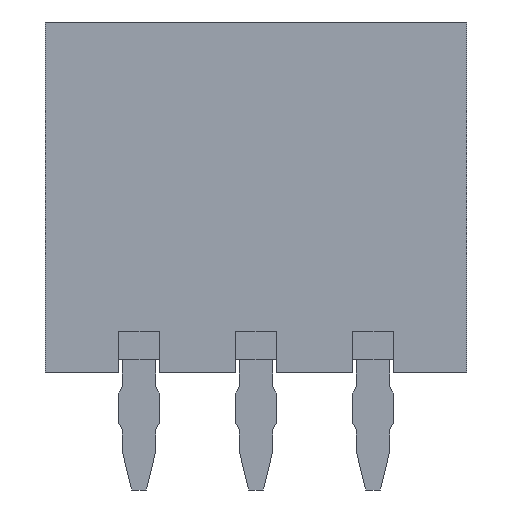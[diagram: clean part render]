
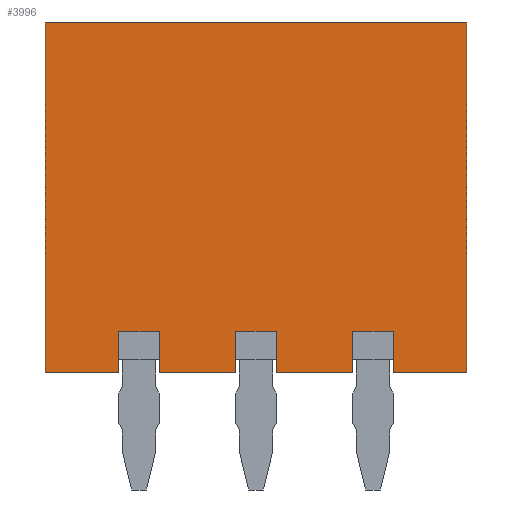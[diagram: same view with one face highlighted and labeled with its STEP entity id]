
A CAD part, front view. The second image highlights one B-rep face of the part: STEP entity #3996.
In plain terms, the highlighted planar face has unit normal (0, -1, 0).
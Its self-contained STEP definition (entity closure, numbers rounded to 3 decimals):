
#9=DIRECTION('',(1.,0.,0.));
#10=VECTOR('',#9,2.2);
#11=CARTESIAN_POINT('',(-6.3,-3.8,-5.25));
#12=LINE('',#11,#10);
#17=DIRECTION('',(1.,0.,0.));
#18=VECTOR('',#17,2.3);
#19=CARTESIAN_POINT('',(-2.9,-3.8,-5.25));
#20=LINE('',#19,#18);
#25=DIRECTION('',(1.,0.,0.));
#26=VECTOR('',#25,2.3);
#27=CARTESIAN_POINT('',(0.6,-3.8,-5.25));
#28=LINE('',#27,#26);
#29=DIRECTION('',(1.,0.,0.));
#30=VECTOR('',#29,2.2);
#31=CARTESIAN_POINT('',(4.1,-3.8,-5.25));
#32=LINE('',#31,#30);
#677=DIRECTION('',(1.,0.,0.));
#678=VECTOR('',#677,12.6);
#679=CARTESIAN_POINT('',(-6.3,-3.8,5.25));
#680=LINE('',#679,#678);
#811=DIRECTION('',(0.,0.,1.));
#812=VECTOR('',#811,10.5);
#813=CARTESIAN_POINT('',(6.3,-3.8,-5.25));
#814=LINE('',#813,#812);
#819=DIRECTION('',(0.,0.,1.));
#820=VECTOR('',#819,1.25);
#821=CARTESIAN_POINT('',(4.1,-3.8,-5.25));
#822=LINE('',#821,#820);
#823=DIRECTION('',(1.,0.,0.));
#824=VECTOR('',#823,1.2);
#825=CARTESIAN_POINT('',(2.9,-3.8,-4.));
#826=LINE('',#825,#824);
#827=DIRECTION('',(0.,0.,1.));
#828=VECTOR('',#827,1.25);
#829=CARTESIAN_POINT('',(2.9,-3.8,-5.25));
#830=LINE('',#829,#828);
#831=DIRECTION('',(0.,0.,1.));
#832=VECTOR('',#831,1.25);
#833=CARTESIAN_POINT('',(0.6,-3.8,-5.25));
#834=LINE('',#833,#832);
#835=DIRECTION('',(1.,0.,0.));
#836=VECTOR('',#835,1.2);
#837=CARTESIAN_POINT('',(-0.6,-3.8,-4.));
#838=LINE('',#837,#836);
#839=DIRECTION('',(0.,0.,1.));
#840=VECTOR('',#839,1.25);
#841=CARTESIAN_POINT('',(-0.6,-3.8,-5.25));
#842=LINE('',#841,#840);
#843=DIRECTION('',(0.,0.,1.));
#844=VECTOR('',#843,1.25);
#845=CARTESIAN_POINT('',(-2.9,-3.8,-5.25));
#846=LINE('',#845,#844);
#847=DIRECTION('',(1.,0.,0.));
#848=VECTOR('',#847,1.2);
#849=CARTESIAN_POINT('',(-4.1,-3.8,-4.));
#850=LINE('',#849,#848);
#851=DIRECTION('',(0.,0.,1.));
#852=VECTOR('',#851,1.25);
#853=CARTESIAN_POINT('',(-4.1,-3.8,-5.25));
#854=LINE('',#853,#852);
#855=DIRECTION('',(0.,0.,1.));
#856=VECTOR('',#855,10.5);
#857=CARTESIAN_POINT('',(-6.3,-3.8,-5.25));
#858=LINE('',#857,#856);
#2226=CARTESIAN_POINT('',(-6.3,-3.8,-5.25));
#2228=VERTEX_POINT('',#2226);
#2230=CARTESIAN_POINT('',(-6.3,-3.8,5.25));
#2232=VERTEX_POINT('',#2230);
#2233=CARTESIAN_POINT('',(6.3,-3.8,5.25));
#2234=VERTEX_POINT('',#2233);
#2237=CARTESIAN_POINT('',(6.3,-3.8,-5.25));
#2238=VERTEX_POINT('',#2237);
#2339=CARTESIAN_POINT('',(-2.9,-3.8,-5.25));
#2340=CARTESIAN_POINT('',(-2.9,-3.8,-4.));
#2341=VERTEX_POINT('',#2339);
#2342=VERTEX_POINT('',#2340);
#2343=CARTESIAN_POINT('',(-4.1,-3.8,-5.25));
#2344=CARTESIAN_POINT('',(-4.1,-3.8,-4.));
#2345=VERTEX_POINT('',#2343);
#2346=VERTEX_POINT('',#2344);
#2371=CARTESIAN_POINT('',(0.6,-3.8,-5.25));
#2372=CARTESIAN_POINT('',(0.6,-3.8,-4.));
#2373=VERTEX_POINT('',#2371);
#2374=VERTEX_POINT('',#2372);
#2375=CARTESIAN_POINT('',(-0.6,-3.8,-5.25));
#2376=CARTESIAN_POINT('',(-0.6,-3.8,-4.));
#2377=VERTEX_POINT('',#2375);
#2378=VERTEX_POINT('',#2376);
#2403=CARTESIAN_POINT('',(4.1,-3.8,-5.25));
#2404=CARTESIAN_POINT('',(4.1,-3.8,-4.));
#2405=VERTEX_POINT('',#2403);
#2406=VERTEX_POINT('',#2404);
#2407=CARTESIAN_POINT('',(2.9,-3.8,-5.25));
#2408=CARTESIAN_POINT('',(2.9,-3.8,-4.));
#2409=VERTEX_POINT('',#2407);
#2410=VERTEX_POINT('',#2408);
#3965=CARTESIAN_POINT('',(-6.3,-3.8,-5.25));
#3966=DIRECTION('',(0.,-1.,0.));
#3967=DIRECTION('',(1.,0.,0.));
#3968=AXIS2_PLACEMENT_3D('',#3965,#3966,#3967);
#3969=PLANE('',#3968);
#3971=ORIENTED_EDGE('',*,*,#3970,.T.);
#3973=ORIENTED_EDGE('',*,*,#3972,.F.);
#3975=ORIENTED_EDGE('',*,*,#3974,.F.);
#3976=ORIENTED_EDGE('',*,*,#2980,.F.);
#3978=ORIENTED_EDGE('',*,*,#3977,.T.);
#3980=ORIENTED_EDGE('',*,*,#3979,.F.);
#3982=ORIENTED_EDGE('',*,*,#3981,.F.);
#3983=ORIENTED_EDGE('',*,*,#2964,.F.);
#3984=ORIENTED_EDGE('',*,*,#3126,.T.);
#3986=ORIENTED_EDGE('',*,*,#3985,.F.);
#3987=ORIENTED_EDGE('',*,*,#3039,.F.);
#3988=ORIENTED_EDGE('',*,*,#2948,.F.);
#3990=ORIENTED_EDGE('',*,*,#3989,.T.);
#3991=ORIENTED_EDGE('',*,*,#3820,.T.);
#3992=ORIENTED_EDGE('',*,*,#3956,.F.);
#3993=ORIENTED_EDGE('',*,*,#2992,.F.);
#3994=EDGE_LOOP('',(#3971,#3973,#3975,#3976,#3978,#3980,#3982,#3983,#3984,#3986,
#3987,#3988,#3990,#3991,#3992,#3993));
#3995=FACE_OUTER_BOUND('',#3994,.F.);
#3996=ADVANCED_FACE('',(#3995),#3969,.T.);
#2948=EDGE_CURVE('',#2228,#2345,#12,.T.);
#2964=EDGE_CURVE('',#2341,#2377,#20,.T.);
#2980=EDGE_CURVE('',#2373,#2409,#28,.T.);
#2992=EDGE_CURVE('',#2405,#2238,#32,.T.);
#3039=EDGE_CURVE('',#2345,#2346,#854,.T.);
#3126=EDGE_CURVE('',#2341,#2342,#846,.T.);
#3820=EDGE_CURVE('',#2232,#2234,#680,.T.);
#3956=EDGE_CURVE('',#2238,#2234,#814,.T.);
#3970=EDGE_CURVE('',#2405,#2406,#822,.T.);
#3972=EDGE_CURVE('',#2410,#2406,#826,.T.);
#3974=EDGE_CURVE('',#2409,#2410,#830,.T.);
#3977=EDGE_CURVE('',#2373,#2374,#834,.T.);
#3979=EDGE_CURVE('',#2378,#2374,#838,.T.);
#3981=EDGE_CURVE('',#2377,#2378,#842,.T.);
#3985=EDGE_CURVE('',#2346,#2342,#850,.T.);
#3989=EDGE_CURVE('',#2228,#2232,#858,.T.);
